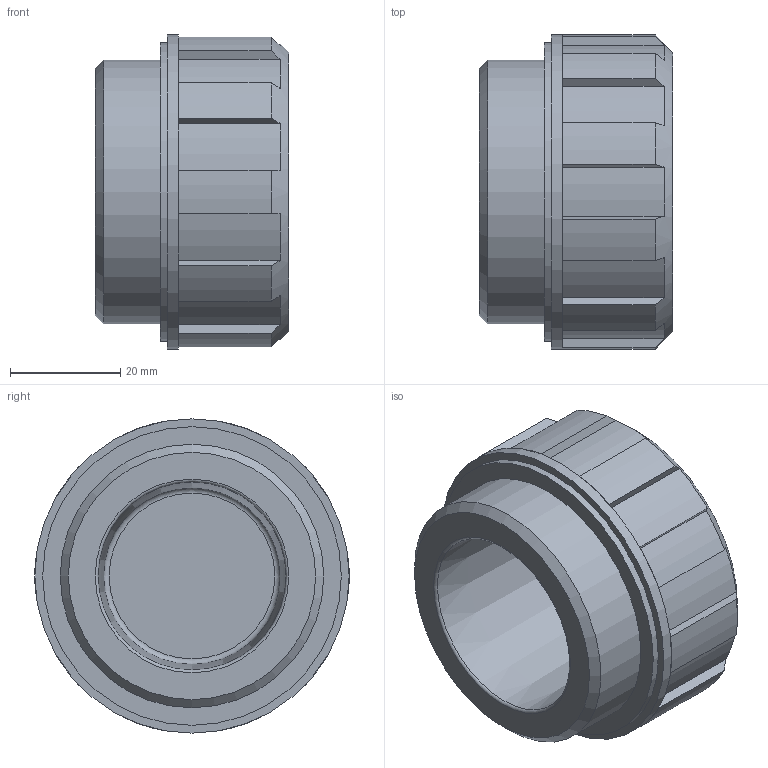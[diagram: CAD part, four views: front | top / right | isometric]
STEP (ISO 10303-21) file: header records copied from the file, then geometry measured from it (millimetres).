
FILE_DESCRIPTION( ( 'STEP AP203' ), '1' );
FILE_NAME( 'C:/Temp/Ganter_Step_05_03_2020/data/3_5/gn548_1/Plug GN 548.1-G11_2-A.stp', '2020-03-12T13:35:44', ( 'License CC BY-ND 4.0' ), ( 'CADENAS' ), ' ', 'PARTsolutions', ' ' );
FILE_SCHEMA( ( 'CONFIG_CONTROL_DESIGN' ) );
Length unit declared in the file: millimetre
Products named in the file (1): _Plug GN 548.1-G11/2-A
Bounding box: 35 x 57 x 57 mm (x, y, z)
Volume: 49800.5 mm3; surface area: 14662.6 mm2
Topology: 1 solids, 1 shells, 56 faces, 144 edges, 95 vertices
Faces by surface type: plane 27, cylinder 24, cone 3, torus 2
Full cylindrical faces by diameter (mm): 47.803 x1, 51.818 x1, 54.15 x1, 57 x1
Entity records: 1728 total; most frequent: CARTESIAN_POINT 345, DIRECTION 282, ORIENTED_EDGE 268, EDGE_CURVE 134, AXIS2_PLACEMENT_3D 111, VERTEX_POINT 94, EDGE_LOOP 70, FACE_OUTER_BOUND 62
